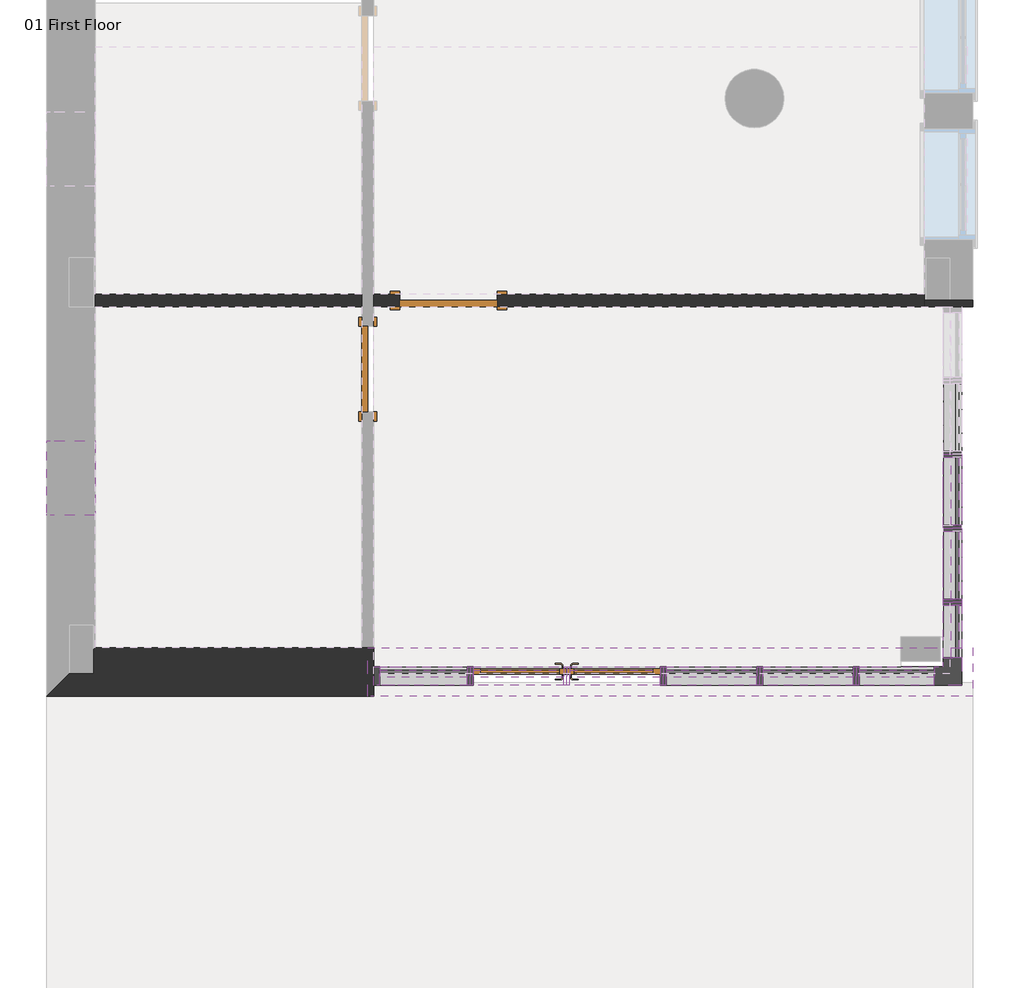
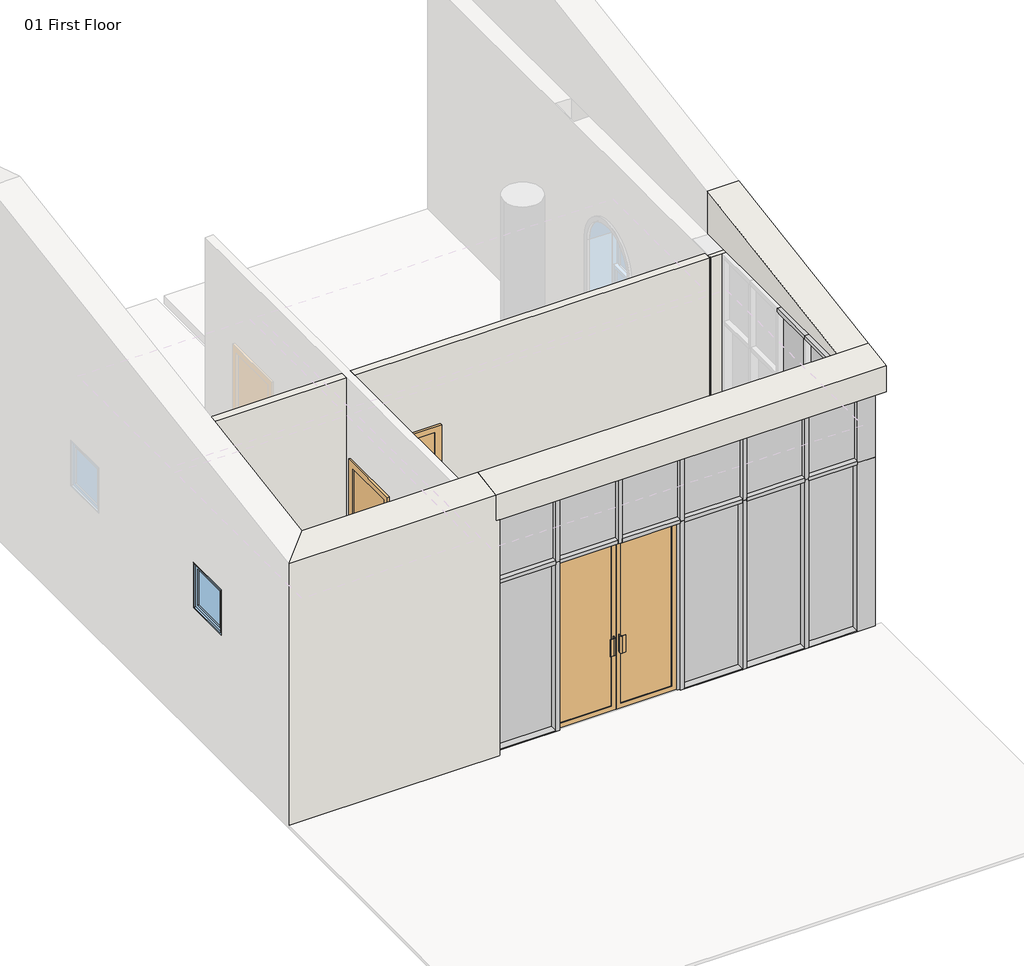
# One storey, part 1 of 3: 43 members, 16 plates, 4 walls, 3 doors, 1 window.
"""IFC4 building model written with IfcOpenShell, lengths in millimetres."""

from ifc_helpers import new_model, si_unit, origin, place, context, project, spatial, faceted_brep, transform, mapped, element, save
from components import m_door_curtain_wall_double_storefront_m_door_curtain_wall_8dde1bc9, m_single_flush_0700_x_2100mm_23326b45, m_single_flush_0800_x_2100mm_5931a049, l_corner_mullion_l_mullion_1_1d961c4e, l_corner_mullion_l_mullion_1_b63ad59a, rectangular_mullion_50_x_150mm_324a6438, rectangular_mullion_50_x_150mm_8753ce05, rectangular_mullion_50_x_150mm_f70f74d1, rectangular_mullion_50_x_150mm_f478ca5a, rectangular_mullion_50_x_150mm_1075d9c1, rectangular_mullion_50_x_150mm_b6bf1841, rectangular_mullion_50_x_150mm_342cd1b8, rectangular_mullion_50_x_150mm_27f82533, rectangular_mullion_50_x_150mm_39193753, rectangular_mullion_50_x_150mm_f704ff47, rectangular_mullion_50_x_150mm_af0ba744, rectangular_mullion_50_x_150mm_80f63b0b, rectangular_mullion_50_x_150mm_db5acec3, rectangular_mullion_50_x_150mm_cae2f493, rectangular_mullion_50_x_150mm_9a38d7ad, rectangular_mullion_50_x_150mm_a8401840, rectangular_mullion_50_x_150mm_3184acce, rectangular_mullion_50_x_150mm_44fe3089, rectangular_mullion_50_x_150mm_4e612c1a, rectangular_mullion_50_x_150mm_7d2f3f35, system_panel_glazed_834570a4, system_panel_glazed_a0e57360, system_panel_glazed_6aca887c, system_panel_glazed_76cff112, system_panel_glazed_0cbce7a5, system_panel_solid_505ec3b0, system_panel_solid_37a388a8, system_panel_solid_ce425cba, system_panel_solid_9ac85d2e, system_panel_solid_fdd704db, m_fixed_0610_x_0610mm_08517cb4

model = new_model("IFC4")

# Units and contexts
model_context = context("Model", 3, world=origin())
ifc_project = project(units=[si_unit("LENGTHUNIT", "METRE", prefix="MILLI")], contexts=[model_context])

# Site, building, storey
site = spatial("IfcSite", under=ifc_project)
building = spatial("IfcBuilding", under=site)
storey = spatial("IfcBuildingStorey", under=building, Name="01 First Floor", Elevation=3500.0)

# Doors
placement = place(None, origin())
m_door_curtain_wall_double_storefront_m_door_curtain_wall_shape = m_door_curtain_wall_double_storefront_m_door_curtain_wall_8dde1bc9(model_context)
element("IfcDoor", 1, ObjectType="M_Door-Curtain-Wall-Double-Storefront : M_Door-Curtain-Wall-Double-Storefront", at=placement, inside=storey, context=model_context, shape_type="MappedRepresentation", body=[
    mapped(m_door_curtain_wall_double_storefront_m_door_curtain_wall_shape, transform((-4255.8741332, -3082.7101648, 3500.0), x_axis=(1.0, 0.0, 0.0), y_axis=(0.0, 1.0, 0.0), z_axis=(0.0, 0.0, 1.0))),
])
m_single_flush_0700_x_2100mm_shape = m_single_flush_0700_x_2100mm_23326b45(model_context)
element("IfcDoor", 2, ObjectType="M_Single-Flush : 0700 x 2100mm", at=placement, inside=storey, context=model_context, shape_type="MappedRepresentation", body=[
    mapped(m_single_flush_0700_x_2100mm_shape, transform((-5882.5407999, -574.1267294, 3500.0), x_axis=(0.0, 1.0, 0.0), y_axis=(-1.0, 0.0, 0.0), z_axis=(0.0, 0.0, 1.0))),
])
m_single_flush_0800_x_2100mm_shape = m_single_flush_0800_x_2100mm_5931a049(model_context)
element("IfcDoor", 3, ObjectType="M_Single-Flush : 0800 x 2100mm", at=placement, inside=storey, context=model_context, shape_type="MappedRepresentation", body=[
    mapped(m_single_flush_0800_x_2100mm_shape, transform((-5222.5407999, -12.7101648, 3500.0), x_axis=(-1.0, 0.0, 0.0), y_axis=(0.0, -1.0, 0.0), z_axis=(0.0, 0.0, 1.0))),
])

# Members
l_corner_mullion_l_mullion_1_shape = l_corner_mullion_l_mullion_1_1d961c4e(model_context)
element("IfcMember", 4, ObjectType="L Corner Mullion : L Mullion 1", at=placement, inside=storey, context=model_context, shape_type="MappedRepresentation", body=[
    mapped(l_corner_mullion_l_mullion_1_shape, transform((-1102.5407999, -3082.7101648, 5800.0), x_axis=(0.0, -1.0, 0.0), y_axis=(1.0, 0.0, 0.0), z_axis=(0.0, 0.0, 1.0))),
])
l_corner_mullion_l_mullion_1_2_shape = l_corner_mullion_l_mullion_1_b63ad59a(model_context)
element("IfcMember", 5, ObjectType="L Corner Mullion : L Mullion 1", at=placement, inside=storey, context=model_context, shape_type="MappedRepresentation", body=[
    mapped(l_corner_mullion_l_mullion_1_2_shape, transform((-1102.5407999, -3082.7101648, 6700.0), x_axis=(0.0, -1.0, 0.0), y_axis=(1.0, 0.0, 0.0), z_axis=(0.0, 0.0, 1.0))),
])
rectangular_mullion_50_x_150mm_shape = rectangular_mullion_50_x_150mm_324a6438(model_context)
element("IfcMember", 6, ObjectType="Rectangular Mullion : 50 x 150mm", at=placement, inside=storey, context=model_context, shape_type="MappedRepresentation", body=[
    mapped(rectangular_mullion_50_x_150mm_shape, transform((-5832.5407999, -3082.7101648, 6650.0), x_axis=(-1.0, 0.0, 0.0), y_axis=(0.0, -1.0, 0.0), z_axis=(0.0, 0.0, 1.0))),
])
rectangular_mullion_50_x_150mm_2_shape = rectangular_mullion_50_x_150mm_8753ce05(model_context)
element("IfcMember", 7, ObjectType="Rectangular Mullion : 50 x 150mm", at=placement, inside=storey, context=model_context, shape_type="MappedRepresentation", body=[
    mapped(rectangular_mullion_50_x_150mm_2_shape, transform((-5832.5407999, -3082.7101648, 5800.0), x_axis=(-1.0, 0.0, 0.0), y_axis=(0.0, -1.0, 0.0), z_axis=(0.0, 0.0, 1.0))),
])
rectangular_mullion_50_x_150mm_3_shape = rectangular_mullion_50_x_150mm_f70f74d1(model_context)
element("IfcMember", 8, ObjectType="Rectangular Mullion : 50 x 150mm", at=placement, inside=storey, context=model_context, shape_type="MappedRepresentation", body=[
    mapped(rectangular_mullion_50_x_150mm_3_shape, transform((-5044.2074664, -3082.7101648, 3500.0), x_axis=(1.0, 0.0, 0.0), y_axis=(0.0, -1.0, 0.0), z_axis=(0.0, 0.0, -1.0))),
])
element("IfcMember", 9, ObjectType="Rectangular Mullion : 50 x 150mm", at=placement, inside=storey, context=model_context, shape_type="MappedRepresentation", body=[
    mapped(rectangular_mullion_50_x_150mm_3_shape, transform((-3467.5407999, -3082.7101648, 3500.0), x_axis=(1.0, 0.0, 0.0), y_axis=(0.0, -1.0, 0.0), z_axis=(0.0, 0.0, -1.0))),
])
element("IfcMember", 10, ObjectType="Rectangular Mullion : 50 x 150mm", at=placement, inside=storey, context=model_context, shape_type="MappedRepresentation", body=[
    mapped(rectangular_mullion_50_x_150mm_3_shape, transform((-2679.2074667, -3082.7101648, 3500.0), x_axis=(1.0, 0.0, 0.0), y_axis=(0.0, -1.0, 0.0), z_axis=(0.0, 0.0, -1.0))),
])
element("IfcMember", 11, ObjectType="Rectangular Mullion : 50 x 150mm", at=placement, inside=storey, context=model_context, shape_type="MappedRepresentation", body=[
    mapped(rectangular_mullion_50_x_150mm_3_shape, transform((-1890.8741335, -3082.7101648, 3500.0), x_axis=(1.0, 0.0, 0.0), y_axis=(0.0, -1.0, 0.0), z_axis=(0.0, 0.0, -1.0))),
])
rectangular_mullion_50_x_150mm_4_shape = rectangular_mullion_50_x_150mm_f478ca5a(model_context)
element("IfcMember", 12, ObjectType="Rectangular Mullion : 50 x 150mm", at=placement, inside=storey, context=model_context, shape_type="MappedRepresentation", body=[
    mapped(rectangular_mullion_50_x_150mm_4_shape, transform((-5044.2074664, -3082.7101648, 5800.0), x_axis=(1.0, 0.0, 0.0), y_axis=(0.0, -1.0, 0.0), z_axis=(0.0, 0.0, -1.0))),
])
element("IfcMember", 13, ObjectType="Rectangular Mullion : 50 x 150mm", at=placement, inside=storey, context=model_context, shape_type="MappedRepresentation", body=[
    mapped(rectangular_mullion_50_x_150mm_4_shape, transform((-3467.5407999, -3082.7101648, 5800.0), x_axis=(1.0, 0.0, 0.0), y_axis=(0.0, -1.0, 0.0), z_axis=(0.0, 0.0, -1.0))),
])
element("IfcMember", 14, ObjectType="Rectangular Mullion : 50 x 150mm", at=placement, inside=storey, context=model_context, shape_type="MappedRepresentation", body=[
    mapped(rectangular_mullion_50_x_150mm_4_shape, transform((-2679.2074667, -3082.7101648, 5800.0), x_axis=(1.0, 0.0, 0.0), y_axis=(0.0, -1.0, 0.0), z_axis=(0.0, 0.0, -1.0))),
])
element("IfcMember", 15, ObjectType="Rectangular Mullion : 50 x 150mm", at=placement, inside=storey, context=model_context, shape_type="MappedRepresentation", body=[
    mapped(rectangular_mullion_50_x_150mm_4_shape, transform((-1890.8741335, -3082.7101648, 5800.0), x_axis=(1.0, 0.0, 0.0), y_axis=(0.0, -1.0, 0.0), z_axis=(0.0, 0.0, -1.0))),
])
rectangular_mullion_50_x_150mm_5_shape = rectangular_mullion_50_x_150mm_1075d9c1(model_context)
element("IfcMember", 16, ObjectType="Rectangular Mullion : 50 x 150mm", at=placement, inside=storey, context=model_context, shape_type="MappedRepresentation", body=[
    mapped(rectangular_mullion_50_x_150mm_5_shape, transform((-4255.8741332, -3082.7101648, 5775.0), x_axis=(1.0, 0.0, 0.0), y_axis=(0.0, -1.0, 0.0), z_axis=(0.0, 0.0, -1.0))),
])
element("IfcMember", 17, ObjectType="Rectangular Mullion : 50 x 150mm", at=placement, inside=storey, context=model_context, shape_type="MappedRepresentation", body=[
    mapped(rectangular_mullion_50_x_150mm_3_shape, transform((-1102.5407999, -2478.7101646, 3500.0), x_axis=(0.0, 1.0, 0.0), y_axis=(1.0, 0.0, 0.0), z_axis=(0.0, 0.0, -1.0))),
])
element("IfcMember", 18, ObjectType="Rectangular Mullion : 50 x 150mm", at=placement, inside=storey, context=model_context, shape_type="MappedRepresentation", body=[
    mapped(rectangular_mullion_50_x_150mm_3_shape, transform((-1102.5407999, -1874.7101647, 3500.0), x_axis=(0.0, 1.0, 0.0), y_axis=(1.0, 0.0, 0.0), z_axis=(0.0, 0.0, -1.0))),
])
element("IfcMember", 19, ObjectType="Rectangular Mullion : 50 x 150mm", at=placement, inside=storey, context=model_context, shape_type="MappedRepresentation", body=[
    mapped(rectangular_mullion_50_x_150mm_3_shape, transform((-1102.5407999, -1270.7101648, 3500.0), x_axis=(0.0, 1.0, 0.0), y_axis=(1.0, 0.0, 0.0), z_axis=(0.0, 0.0, -1.0))),
])
element("IfcMember", 20, ObjectType="Rectangular Mullion : 50 x 150mm", at=placement, inside=storey, context=model_context, shape_type="MappedRepresentation", body=[
    mapped(rectangular_mullion_50_x_150mm_4_shape, transform((-1102.5407999, -2478.7101646, 5800.0), x_axis=(0.0, 1.0, 0.0), y_axis=(1.0, 0.0, 0.0), z_axis=(0.0, 0.0, -1.0))),
])
rectangular_mullion_50_x_150mm_6_shape = rectangular_mullion_50_x_150mm_b6bf1841(model_context)
element("IfcMember", 21, ObjectType="Rectangular Mullion : 50 x 150mm", at=placement, inside=storey, context=model_context, shape_type="MappedRepresentation", body=[
    mapped(rectangular_mullion_50_x_150mm_6_shape, transform((-1102.5407999, -2932.7101648, 3500.0), x_axis=(0.0, 0.0, -1.0), y_axis=(1.0, 0.0, 0.0), z_axis=(0.0, -1.0, 0.0))),
])
rectangular_mullion_50_x_150mm_7_shape = rectangular_mullion_50_x_150mm_342cd1b8(model_context)
element("IfcMember", 22, ObjectType="Rectangular Mullion : 50 x 150mm", at=placement, inside=storey, context=model_context, shape_type="MappedRepresentation", body=[
    mapped(rectangular_mullion_50_x_150mm_7_shape, transform((-1102.5407999, -2478.7101646, 6700.0), x_axis=(0.0, 0.0, 1.0), y_axis=(1.0, 0.0, 0.0), z_axis=(0.0, 1.0, 0.0))),
])
rectangular_mullion_50_x_150mm_8_shape = rectangular_mullion_50_x_150mm_27f82533(model_context)
element("IfcMember", 23, ObjectType="Rectangular Mullion : 50 x 150mm", at=placement, inside=storey, context=model_context, shape_type="MappedRepresentation", body=[
    mapped(rectangular_mullion_50_x_150mm_8_shape, transform((-1102.5407999, -1874.7101647, 6700.0), x_axis=(0.0, 0.0, 1.0), y_axis=(1.0, 0.0, 0.0), z_axis=(0.0, 1.0, 0.0))),
])
element("IfcMember", 24, ObjectType="Rectangular Mullion : 50 x 150mm", at=placement, inside=storey, context=model_context, shape_type="MappedRepresentation", body=[
    mapped(rectangular_mullion_50_x_150mm_8_shape, transform((-1102.5407999, -1270.7101648, 6700.0), x_axis=(0.0, 0.0, 1.0), y_axis=(1.0, 0.0, 0.0), z_axis=(0.0, 1.0, 0.0))),
])
rectangular_mullion_50_x_150mm_9_shape = rectangular_mullion_50_x_150mm_39193753(model_context)
element("IfcMember", 25, ObjectType="Rectangular Mullion : 50 x 150mm", at=placement, inside=storey, context=model_context, shape_type="MappedRepresentation", body=[
    mapped(rectangular_mullion_50_x_150mm_9_shape, transform((-1102.5407999, -2453.7101646, 3500.0), x_axis=(0.0, 0.0, -1.0), y_axis=(1.0, 0.0, 0.0), z_axis=(0.0, -1.0, 0.0))),
])
element("IfcMember", 26, ObjectType="Rectangular Mullion : 50 x 150mm", at=placement, inside=storey, context=model_context, shape_type="MappedRepresentation", body=[
    mapped(rectangular_mullion_50_x_150mm_9_shape, transform((-1102.5407999, -1849.7101647, 3500.0), x_axis=(0.0, 0.0, -1.0), y_axis=(1.0, 0.0, 0.0), z_axis=(0.0, -1.0, 0.0))),
])
element("IfcMember", 27, ObjectType="Rectangular Mullion : 50 x 150mm", at=placement, inside=storey, context=model_context, shape_type="MappedRepresentation", body=[
    mapped(rectangular_mullion_50_x_150mm_9_shape, transform((-1102.5407999, -1245.7101648, 3500.0), x_axis=(0.0, 0.0, -1.0), y_axis=(1.0, 0.0, 0.0), z_axis=(0.0, -1.0, 0.0))),
])
rectangular_mullion_50_x_150mm_10_shape = rectangular_mullion_50_x_150mm_f704ff47(model_context)
element("IfcMember", 28, ObjectType="Rectangular Mullion : 50 x 150mm", at=placement, inside=storey, context=model_context, shape_type="MappedRepresentation", body=[
    mapped(rectangular_mullion_50_x_150mm_10_shape, transform((-1102.5407999, -2503.7101646, 5800.0), x_axis=(0.0, 0.0, 1.0), y_axis=(1.0, 0.0, 0.0), z_axis=(0.0, 1.0, 0.0))),
])
rectangular_mullion_50_x_150mm_11_shape = rectangular_mullion_50_x_150mm_af0ba744(model_context)
element("IfcMember", 29, ObjectType="Rectangular Mullion : 50 x 150mm", at=placement, inside=storey, context=model_context, shape_type="MappedRepresentation", body=[
    mapped(rectangular_mullion_50_x_150mm_11_shape, transform((-1102.5407999, -1899.7101647, 5800.0), x_axis=(0.0, 0.0, 1.0), y_axis=(1.0, 0.0, 0.0), z_axis=(0.0, 1.0, 0.0))),
])
element("IfcMember", 30, ObjectType="Rectangular Mullion : 50 x 150mm", at=placement, inside=storey, context=model_context, shape_type="MappedRepresentation", body=[
    mapped(rectangular_mullion_50_x_150mm_11_shape, transform((-1102.5407999, -1295.7101648, 5800.0), x_axis=(0.0, 0.0, 1.0), y_axis=(1.0, 0.0, 0.0), z_axis=(0.0, 1.0, 0.0))),
])
rectangular_mullion_50_x_150mm_12_shape = rectangular_mullion_50_x_150mm_80f63b0b(model_context)
element("IfcMember", 31, ObjectType="Rectangular Mullion : 50 x 150mm", at=placement, inside=storey, context=model_context, shape_type="MappedRepresentation", body=[
    mapped(rectangular_mullion_50_x_150mm_12_shape, transform((-5782.5407999, -3082.7101648, 3500.0), x_axis=(0.0, 0.0, -1.0), y_axis=(0.0, -1.0, 0.0), z_axis=(-1.0, 0.0, 0.0))),
])
rectangular_mullion_50_x_150mm_13_shape = rectangular_mullion_50_x_150mm_db5acec3(model_context)
element("IfcMember", 32, ObjectType="Rectangular Mullion : 50 x 150mm", at=placement, inside=storey, context=model_context, shape_type="MappedRepresentation", body=[
    mapped(rectangular_mullion_50_x_150mm_13_shape, transform((-5044.2074664, -3082.7101648, 6700.0), x_axis=(0.0, 0.0, 1.0), y_axis=(0.0, -1.0, 0.0), z_axis=(1.0, 0.0, 0.0))),
])
rectangular_mullion_50_x_150mm_14_shape = rectangular_mullion_50_x_150mm_cae2f493(model_context)
element("IfcMember", 33, ObjectType="Rectangular Mullion : 50 x 150mm", at=placement, inside=storey, context=model_context, shape_type="MappedRepresentation", body=[
    mapped(rectangular_mullion_50_x_150mm_14_shape, transform((-4255.8741332, -3082.7101648, 6700.0), x_axis=(0.0, 0.0, 1.0), y_axis=(0.0, -1.0, 0.0), z_axis=(1.0, 0.0, 0.0))),
])
element("IfcMember", 34, ObjectType="Rectangular Mullion : 50 x 150mm", at=placement, inside=storey, context=model_context, shape_type="MappedRepresentation", body=[
    mapped(rectangular_mullion_50_x_150mm_14_shape, transform((-3467.5407999, -3082.7101648, 6700.0), x_axis=(0.0, 0.0, 1.0), y_axis=(0.0, -1.0, 0.0), z_axis=(1.0, 0.0, 0.0))),
])
element("IfcMember", 35, ObjectType="Rectangular Mullion : 50 x 150mm", at=placement, inside=storey, context=model_context, shape_type="MappedRepresentation", body=[
    mapped(rectangular_mullion_50_x_150mm_14_shape, transform((-2679.2074667, -3082.7101648, 6700.0), x_axis=(0.0, 0.0, 1.0), y_axis=(0.0, -1.0, 0.0), z_axis=(1.0, 0.0, 0.0))),
])
element("IfcMember", 36, ObjectType="Rectangular Mullion : 50 x 150mm", at=placement, inside=storey, context=model_context, shape_type="MappedRepresentation", body=[
    mapped(rectangular_mullion_50_x_150mm_14_shape, transform((-1890.8741335, -3082.7101648, 6700.0), x_axis=(0.0, 0.0, 1.0), y_axis=(0.0, -1.0, 0.0), z_axis=(1.0, 0.0, 0.0))),
])
rectangular_mullion_50_x_150mm_15_shape = rectangular_mullion_50_x_150mm_9a38d7ad(model_context)
element("IfcMember", 37, ObjectType="Rectangular Mullion : 50 x 150mm", at=placement, inside=storey, context=model_context, shape_type="MappedRepresentation", body=[
    mapped(rectangular_mullion_50_x_150mm_15_shape, transform((-3442.5407999, -3082.7101648, 3500.0), x_axis=(0.0, 0.0, -1.0), y_axis=(0.0, -1.0, 0.0), z_axis=(-1.0, 0.0, 0.0))),
])
element("IfcMember", 38, ObjectType="Rectangular Mullion : 50 x 150mm", at=placement, inside=storey, context=model_context, shape_type="MappedRepresentation", body=[
    mapped(rectangular_mullion_50_x_150mm_15_shape, transform((-2654.2074667, -3082.7101648, 3500.0), x_axis=(0.0, 0.0, -1.0), y_axis=(0.0, -1.0, 0.0), z_axis=(-1.0, 0.0, 0.0))),
])
rectangular_mullion_50_x_150mm_16_shape = rectangular_mullion_50_x_150mm_a8401840(model_context)
element("IfcMember", 39, ObjectType="Rectangular Mullion : 50 x 150mm", at=placement, inside=storey, context=model_context, shape_type="MappedRepresentation", body=[
    mapped(rectangular_mullion_50_x_150mm_16_shape, transform((-5069.2074664, -3082.7101648, 5800.0), x_axis=(0.0, 0.0, 1.0), y_axis=(0.0, -1.0, 0.0), z_axis=(1.0, 0.0, 0.0))),
])
rectangular_mullion_50_x_150mm_17_shape = rectangular_mullion_50_x_150mm_3184acce(model_context)
element("IfcMember", 40, ObjectType="Rectangular Mullion : 50 x 150mm", at=placement, inside=storey, context=model_context, shape_type="MappedRepresentation", body=[
    mapped(rectangular_mullion_50_x_150mm_17_shape, transform((-4280.8741332, -3082.7101648, 5800.0), x_axis=(0.0, 0.0, 1.0), y_axis=(0.0, -1.0, 0.0), z_axis=(1.0, 0.0, 0.0))),
])
element("IfcMember", 41, ObjectType="Rectangular Mullion : 50 x 150mm", at=placement, inside=storey, context=model_context, shape_type="MappedRepresentation", body=[
    mapped(rectangular_mullion_50_x_150mm_17_shape, transform((-3492.5407999, -3082.7101648, 5800.0), x_axis=(0.0, 0.0, 1.0), y_axis=(0.0, -1.0, 0.0), z_axis=(1.0, 0.0, 0.0))),
])
element("IfcMember", 42, ObjectType="Rectangular Mullion : 50 x 150mm", at=placement, inside=storey, context=model_context, shape_type="MappedRepresentation", body=[
    mapped(rectangular_mullion_50_x_150mm_17_shape, transform((-2704.2074667, -3082.7101648, 5800.0), x_axis=(0.0, 0.0, 1.0), y_axis=(0.0, -1.0, 0.0), z_axis=(1.0, 0.0, 0.0))),
])
element("IfcMember", 43, ObjectType="Rectangular Mullion : 50 x 150mm", at=placement, inside=storey, context=model_context, shape_type="MappedRepresentation", body=[
    mapped(rectangular_mullion_50_x_150mm_17_shape, transform((-1915.8741335, -3082.7101648, 5800.0), x_axis=(0.0, 0.0, 1.0), y_axis=(0.0, -1.0, 0.0), z_axis=(1.0, 0.0, 0.0))),
])
rectangular_mullion_50_x_150mm_18_shape = rectangular_mullion_50_x_150mm_44fe3089(model_context)
element("IfcMember", 44, ObjectType="Rectangular Mullion : 50 x 150mm", at=placement, inside=storey, context=model_context, shape_type="MappedRepresentation", body=[
    mapped(rectangular_mullion_50_x_150mm_18_shape, transform((-1252.5407999, -3082.7101648, 6700.0), x_axis=(0.0, 0.0, 1.0), y_axis=(0.0, -1.0, 0.0), z_axis=(1.0, 0.0, 0.0))),
])
rectangular_mullion_50_x_150mm_19_shape = rectangular_mullion_50_x_150mm_4e612c1a(model_context)
element("IfcMember", 45, ObjectType="Rectangular Mullion : 50 x 150mm", at=placement, inside=storey, context=model_context, shape_type="MappedRepresentation", body=[
    mapped(rectangular_mullion_50_x_150mm_19_shape, transform((-1865.8741335, -3082.7101648, 3500.0), x_axis=(0.0, 0.0, -1.0), y_axis=(0.0, -1.0, 0.0), z_axis=(-1.0, 0.0, 0.0))),
])
rectangular_mullion_50_x_150mm_20_shape = rectangular_mullion_50_x_150mm_7d2f3f35(model_context)
element("IfcMember", 46, ObjectType="Rectangular Mullion : 50 x 150mm", at=placement, inside=storey, context=model_context, shape_type="MappedRepresentation", body=[
    mapped(rectangular_mullion_50_x_150mm_20_shape, transform((-1252.5407999, -3082.7101648, 5800.0), x_axis=(0.0, 0.0, 1.0), y_axis=(0.0, -1.0, 0.0), z_axis=(1.0, 0.0, 0.0))),
])

# Plates
system_panel_glazed_shape = system_panel_glazed_834570a4(model_context)
element("IfcPlate", 47, ObjectType="System Panel : Glazed", at=placement, inside=storey, context=model_context, shape_type="MappedRepresentation", body=[
    mapped(system_panel_glazed_shape, transform((-1102.5407999, -2718.2101647, 3550.0), x_axis=(0.0, 1.0, 0.0), y_axis=(-1.0, 0.0, 0.0), z_axis=(0.0, 0.0, 1.0))),
])
system_panel_glazed_2_shape = system_panel_glazed_a0e57360(model_context)
element("IfcPlate", 48, ObjectType="System Panel : Glazed", at=placement, inside=storey, context=model_context, shape_type="MappedRepresentation", body=[
    mapped(system_panel_glazed_2_shape, transform((-1102.5407999, -2176.7101646, 3550.0), x_axis=(0.0, 1.0, 0.0), y_axis=(-1.0, 0.0, 0.0), z_axis=(0.0, 0.0, 1.0))),
])
element("IfcPlate", 49, ObjectType="System Panel : Glazed", at=placement, inside=storey, context=model_context, shape_type="MappedRepresentation", body=[
    mapped(system_panel_glazed_2_shape, transform((-1102.5407999, -1572.7101648, 3550.0), x_axis=(0.0, 1.0, 0.0), y_axis=(-1.0, 0.0, 0.0), z_axis=(0.0, 0.0, 1.0))),
])
system_panel_glazed_3_shape = system_panel_glazed_6aca887c(model_context)
element("IfcPlate", 50, ObjectType="System Panel : Glazed", at=placement, inside=storey, context=model_context, shape_type="MappedRepresentation", body=[
    mapped(system_panel_glazed_3_shape, transform((-5425.8741332, -3082.7101648, 3550.0), x_axis=(1.0, 0.0, 0.0), y_axis=(0.0, 1.0, 0.0), z_axis=(0.0, 0.0, 1.0))),
])
system_panel_glazed_4_shape = system_panel_glazed_76cff112(model_context)
element("IfcPlate", 51, ObjectType="System Panel : Glazed", at=placement, inside=storey, context=model_context, shape_type="MappedRepresentation", body=[
    mapped(system_panel_glazed_4_shape, transform((-3073.3741333, -3082.7101648, 3550.0), x_axis=(1.0, 0.0, 0.0), y_axis=(0.0, 1.0, 0.0), z_axis=(0.0, 0.0, 1.0))),
])
element("IfcPlate", 52, ObjectType="System Panel : Glazed", at=placement, inside=storey, context=model_context, shape_type="MappedRepresentation", body=[
    mapped(system_panel_glazed_4_shape, transform((-2285.0408001, -3082.7101648, 3550.0), x_axis=(1.0, 0.0, 0.0), y_axis=(0.0, 1.0, 0.0), z_axis=(0.0, 0.0, 1.0))),
])
system_panel_glazed_5_shape = system_panel_glazed_0cbce7a5(model_context)
element("IfcPlate", 53, ObjectType="System Panel : Glazed", at=placement, inside=storey, context=model_context, shape_type="MappedRepresentation", body=[
    mapped(system_panel_glazed_5_shape, transform((-1559.2074667, -3082.7101648, 3550.0), x_axis=(1.0, 0.0, 0.0), y_axis=(0.0, 1.0, 0.0), z_axis=(0.0, 0.0, 1.0))),
])
system_panel_solid_shape = system_panel_solid_505ec3b0(model_context)
element("IfcPlate", 54, ObjectType="System Panel : Solid", at=placement, inside=storey, context=model_context, shape_type="MappedRepresentation", body=[
    mapped(system_panel_solid_shape, transform((-1102.5407999, -2718.2101647, 5825.0), x_axis=(0.0, 1.0, 0.0), y_axis=(-1.0, 0.0, 0.0), z_axis=(0.0, 0.0, 1.0))),
])
system_panel_solid_2_shape = system_panel_solid_37a388a8(model_context)
element("IfcPlate", 55, ObjectType="System Panel : Solid", at=placement, inside=storey, context=model_context, shape_type="MappedRepresentation", body=[
    mapped(system_panel_solid_2_shape, transform((-1102.5407999, -2176.7101646, 5825.0), x_axis=(0.0, 1.0, 0.0), y_axis=(-1.0, 0.0, 0.0), z_axis=(0.0, 0.0, 1.0))),
])
element("IfcPlate", 56, ObjectType="System Panel : Solid", at=placement, inside=storey, context=model_context, shape_type="MappedRepresentation", body=[
    mapped(system_panel_solid_2_shape, transform((-1102.5407999, -1572.7101648, 5825.0), x_axis=(0.0, 1.0, 0.0), y_axis=(-1.0, 0.0, 0.0), z_axis=(0.0, 0.0, 1.0))),
])
system_panel_solid_3_shape = system_panel_solid_ce425cba(model_context)
element("IfcPlate", 57, ObjectType="System Panel : Solid", at=placement, inside=storey, context=model_context, shape_type="MappedRepresentation", body=[
    mapped(system_panel_solid_3_shape, transform((-5425.8741332, -3082.7101648, 5825.0), x_axis=(1.0, 0.0, 0.0), y_axis=(0.0, 1.0, 0.0), z_axis=(0.0, 0.0, 1.0))),
])
system_panel_solid_4_shape = system_panel_solid_9ac85d2e(model_context)
element("IfcPlate", 58, ObjectType="System Panel : Solid", at=placement, inside=storey, context=model_context, shape_type="MappedRepresentation", body=[
    mapped(system_panel_solid_4_shape, transform((-4650.0407998, -3082.7101648, 5825.0), x_axis=(1.0, 0.0, 0.0), y_axis=(0.0, 1.0, 0.0), z_axis=(0.0, 0.0, 1.0))),
])
element("IfcPlate", 59, ObjectType="System Panel : Solid", at=placement, inside=storey, context=model_context, shape_type="MappedRepresentation", body=[
    mapped(system_panel_solid_4_shape, transform((-3861.7074666, -3082.7101648, 5825.0), x_axis=(1.0, 0.0, 0.0), y_axis=(0.0, 1.0, 0.0), z_axis=(0.0, 0.0, 1.0))),
])
element("IfcPlate", 60, ObjectType="System Panel : Solid", at=placement, inside=storey, context=model_context, shape_type="MappedRepresentation", body=[
    mapped(system_panel_solid_4_shape, transform((-3073.3741333, -3082.7101648, 5825.0), x_axis=(1.0, 0.0, 0.0), y_axis=(0.0, 1.0, 0.0), z_axis=(0.0, 0.0, 1.0))),
])
element("IfcPlate", 61, ObjectType="System Panel : Solid", at=placement, inside=storey, context=model_context, shape_type="MappedRepresentation", body=[
    mapped(system_panel_solid_4_shape, transform((-2285.0408001, -3082.7101648, 5825.0), x_axis=(1.0, 0.0, 0.0), y_axis=(0.0, 1.0, 0.0), z_axis=(0.0, 0.0, 1.0))),
])
system_panel_solid_5_shape = system_panel_solid_fdd704db(model_context)
element("IfcPlate", 62, ObjectType="System Panel : Solid", at=placement, inside=storey, context=model_context, shape_type="MappedRepresentation", body=[
    mapped(system_panel_solid_5_shape, transform((-1559.2074667, -3082.7101648, 5825.0), x_axis=(1.0, 0.0, 0.0), y_axis=(0.0, 1.0, 0.0), z_axis=(0.0, 0.0, 1.0))),
])

# Walls
element("IfcWall", 63, ObjectType="Exterior - Brick on CMU", at=placement, inside=storey, context=model_context, shape_type="Brep", body=[
    faceted_brep([(-5832.5407999, -2849.7101648, 3500.0), (-5932.5407999, -2849.7101648, 3500.0), (-8109.5407999, -2849.7101648, 3500.0), (-8109.5407999, -2849.7101648, 6700.0), (-5932.5407999, -2849.7101648, 6700.0), (-5832.5407999, -2849.7101648, 6700.0), (-8109.5407999, -2849.7101648, 7106.4671533), (-5882.5407999, -2849.7101648, 7106.4671533), (-5882.5407999, -2849.7101648, 7000.0), (-8109.5407999, -2849.7101648, 7000.0), (-8507.5407999, -3247.7101648, 3500.0), (-5832.5407999, -3247.7101648, 3500.0), (-5832.5407999, -3247.7101648, 6700.0), (-5882.5407999, -3247.7101648, 6700.0), (-5882.5407999, -3247.7101648, 7042.5547445), (-8507.5407999, -3247.7101648, 7042.5547445), (-8322.5407999, -3062.7101648, 3500.0), (-8122.5407999, -3062.7101648, 3500.0), (-8122.5407999, -2862.7101648, 3500.0), (-8322.5407999, -3062.7101648, 7000.0), (-8122.5407999, -2862.7101648, 6700.0), (-8122.5407999, -3062.7101648, 6700.0), (-5882.5407999, -3062.7101648, 7000.0), (-5882.5407999, -3062.7101648, 6700.0)], [[[0, 1, 2, 3, 4, 5]], [[6, 7, 8, 9]], [[10, 11, 12, 13, 14, 15]], [[2, 1, 0, 11, 10, 16, 17, 18]], [[10, 15, 6, 9, 19, 16]], [[2, 18, 20, 3]], [[18, 17, 21, 20]], [[22, 23, 21, 17, 16, 19]], [[22, 19, 9, 8]], [[14, 13, 23, 22, 8, 7]], [[13, 12, 5, 4, 3, 20, 21, 23]], [[11, 0, 5, 12]], [[7, 6, 15, 14]]]),
])
element("IfcWall", 64, ObjectType="Exterior - Brick on CMU", at=placement, inside=storey, context=model_context, shape_type="Brep", body=[
    faceted_brep([(-5882.5407999, -3247.7101648, 6700.0), (-5832.5407999, -3247.7101648, 6700.0), (-937.5407999, -3247.7101648, 6700.0), (-937.5407999, -3247.7101648, 7042.5547445), (-5882.5407999, -3247.7101648, 7042.5547445), (-937.5407999, -2849.7101648, 7106.4671533), (-937.5407999, -2849.7101648, 6700.0), (-1122.5407999, -2849.7101648, 6700.0), (-1122.5407999, -2849.7101648, 7000.0), (-5882.5407999, -2849.7101648, 7000.0), (-5882.5407999, -2849.7101648, 7106.4671533), (-1335.5407999, -2849.7101648, 7106.4671533), (-5882.5407999, -3062.7101648, 6700.0), (-1122.5407999, -3062.7101648, 6700.0), (-5882.5407999, -3062.7101648, 7000.0), (-1122.5407999, -3062.7101648, 7000.0)], [[[0, 1, 2, 3, 4]], [[5, 6, 7, 8, 9, 10, 11]], [[2, 1, 0, 12, 13, 7, 6]], [[0, 4, 10, 9, 14, 12]], [[3, 2, 6, 5]], [[8, 15, 14, 9]], [[13, 15, 8, 7]], [[15, 13, 12, 14]], [[10, 4, 3, 5, 11]]]),
])
element("IfcWall", 65, ObjectType="Exterior - Brick on CMU", at=placement, inside=storey, context=model_context, shape_type="Brep", body=[
    faceted_brep([(-937.5407999, -12.7101648, 3500.0), (-937.5407999, -12.7101648, 7562.0437956), (-937.5407999, -2849.7101648, 7106.4671533), (-937.5407999, -2849.7101648, 6700.0), (-937.5407999, -62.7101648, 6700.0), (-937.5407999, -62.7101648, 3500.0), (-1335.5407999, -2849.7101648, 7106.4671533), (-1335.5407999, -12.7101648, 7562.0437956), (-1335.5407999, -12.7101648, 7000.0), (-1335.5407999, -2849.7101648, 7000.0), (-1335.5407999, -12.7101648, 3500.0), (-1335.5407999, -62.7101648, 3500.0), (-1335.5407999, -62.7101648, 6700.0), (-1335.5407999, -12.7101648, 6700.0), (-1322.5407999, -12.7101648, 3500.0), (-1122.5407999, -12.7101648, 3500.0), (-1122.5407999, -2849.7101648, 7000.0), (-1122.5407999, -2849.7101648, 6700.0), (-1322.5407999, -12.7101648, 6700.0), (-1122.5407999, -12.7101648, 6700.0), (-1122.5407999, -12.7101648, 7000.0), (-1122.5407999, -62.7101648, 6700.0)], [[[0, 1, 2, 3, 4, 5]], [[6, 7, 8, 9]], [[10, 11, 12, 13]], [[10, 14, 15, 0, 5, 11]], [[2, 6, 9, 16, 17, 3]], [[0, 15, 14, 10, 13, 18, 19, 20, 8, 7, 1]], [[21, 19, 18, 13, 12]], [[20, 16, 9, 8]], [[19, 21, 17, 16, 20]], [[7, 6, 2, 1]], [[4, 3, 17, 21]], [[5, 4, 21, 12, 11]]]),
])
element("IfcWall", 66, ObjectType="Generic - 100mm", at=placement, inside=storey, context=model_context, shape_type="Brep", body=[
    faceted_brep([(-1335.5407999, -62.7101648, 3500.0), (-1335.5407999, -62.7101648, 6700.0), (-5832.5407999, -62.7101648, 6700.0), (-5832.5407999, -62.7101648, 3500.0), (-5622.5407999, -62.7101648, 3500.0), (-5622.5407999, -62.7101648, 5600.0), (-4822.5407999, -62.7101648, 5600.0), (-4822.5407999, -62.7101648, 3500.0), (-1335.5407999, 37.2898352, 6700.0), (-1335.5407999, 37.2898352, 3500.0), (-4822.5407999, 37.2898352, 3500.0), (-4822.5407999, 37.2898352, 5600.0), (-5622.5407999, 37.2898352, 5600.0), (-5622.5407999, 37.2898352, 3500.0), (-5832.5407999, 37.2898352, 3500.0), (-5832.5407999, 37.2898352, 6700.0), (-1335.5407999, -12.7101648, 3500.0), (-1335.5407999, -12.7101648, 6700.0)], [[[0, 1, 2, 3, 4, 5, 6, 7]], [[8, 9, 10, 11, 12, 13, 14, 15]], [[9, 16, 0, 7, 10]], [[13, 4, 3, 14]], [[1, 0, 16, 9, 8, 17]], [[3, 2, 15, 14]], [[1, 17, 8, 15, 2]], [[5, 4, 13, 12]], [[6, 5, 12, 11]], [[7, 6, 11, 10]]]),
    faceted_brep([(-8109.5407999, -62.7101648, 6700.0), (-8109.5407999, -62.7101648, 3500.0), (-5932.5407999, -62.7101648, 3500.0), (-5932.5407999, -62.7101648, 6700.0), (-8109.5407999, 37.2898352, 3500.0), (-8109.5407999, 37.2898352, 6700.0), (-5932.5407999, 37.2898352, 6700.0), (-5932.5407999, 37.2898352, 3500.0)], [[[0, 1, 2, 3]], [[4, 5, 6, 7]], [[1, 4, 7, 2]], [[3, 2, 7, 6]], [[5, 0, 3, 6]], [[1, 0, 5, 4]]]),
])

# Window
m_fixed_0610_x_0610mm_shape = m_fixed_0610_x_0610mm_08517cb4(model_context)
element("IfcWindow", 67, ObjectType="M_Fixed : 0610 x 0610mm", at=placement, inside=storey, context=model_context, shape_type="MappedRepresentation", body=[
    mapped(m_fixed_0610_x_0610mm_shape, transform((-8295.5407999, -1462.7101648, 4275.0), x_axis=(0.0, 1.0, 0.0), y_axis=(-1.0, 0.0, 0.0), z_axis=(0.0, 0.0, 1.0))),
])

save(model, "model.ifc")
